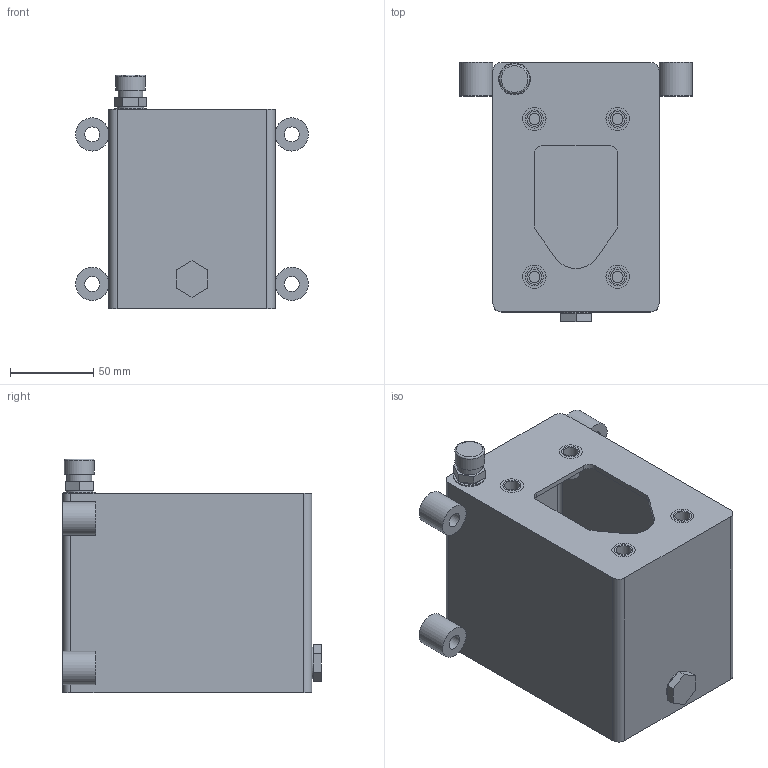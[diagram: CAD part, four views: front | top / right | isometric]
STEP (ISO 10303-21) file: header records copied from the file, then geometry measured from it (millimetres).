
FILE_DESCRIPTION( ( 'Unknown' ), '1' );
FILE_NAME( 'C:/AAADIS PDF/PM00220001.stp', 'Unknown', ( 'Unknown' ), ( 'Unknown' ), 'PSStep 17.0.49', 'Unknown', ' ' );
FILE_SCHEMA( ( 'AUTOMOTIVE_DESIGN { 1 0 10303 214 1 1 1 1 }' ) );
Length unit declared in the file: millimetre
Products named in the file (8): Assem1; GAR1300000; RV401.0400; ATS31A0040; PM00220007_02; PM00220001_01; PM00220001
Assembly tree (14 placements, depth 2):
  Assem1
    GAR1300000  x2
    RV401.0400
    ATS31A0040
    ATS31A0040
    PM00220007_02  x4
    PM00220001_01  x4
    PM00220001
Bounding box: 140 x 155.7 x 140.7 mm (x, y, z)
Volume: 278310.6 mm3; surface area: 184770.6 mm2
Topology: 14 solids, 14 shells, 134 faces, 281 edges, 190 vertices
Faces by surface type: plane 72, cylinder 53, cone 7, torus 2
Full cylindrical faces by diameter (mm): 6 x1, 6.647 x4, 8 x1, 9 x9, 10.9 x8, 11.445 x2, 12 x1, 13 x2, 13.157 x1, 13.16 x1, 15 x1, 16 x2, 18 x1, 19 x2, 20 x4
Entity records: 3374 total; most frequent: DIRECTION 478, CARTESIAN_POINT 424, ORIENTED_EDGE 354, AXIS2_PLACEMENT_3D 189, EDGE_CURVE 177, EDGE_LOOP 156, VERTEX_POINT 135, FACE_OUTER_BOUND 122
